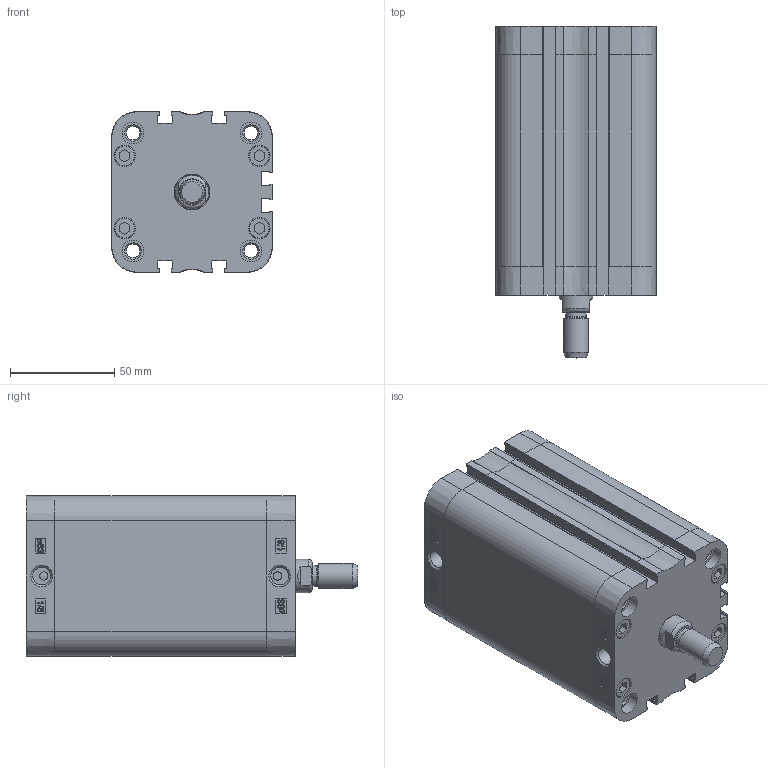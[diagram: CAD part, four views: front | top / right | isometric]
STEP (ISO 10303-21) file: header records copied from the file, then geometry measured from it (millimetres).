
FILE_DESCRIPTION((''),'2;1');
FILE_NAME('T:\Archivio Inventor\- CATALOGHI 2012\SERIE P - NUOVA\PDM\PDM063\PDM063.---.GS.M\PDM063.080.GS.M.stp','2013-02-04T09:29:17',('Administrator'),(''),'Autodesk Inventor 2012','Autodesk Inventor 2012','');
FILE_SCHEMA(('CONFIG_CONTROL_DESIGN'));
Length unit declared in the file: millimetre
Products named in the file (1): PDM063.080.GS.M
Bounding box: 77 x 159 x 77 mm (x, y, z)
Volume: 322040.9 mm3; surface area: 124223.4 mm2
Topology: 1 solids, 5 shells, 824 faces, 1993 edges, 1252 vertices
Faces by surface type: plane 346, bspline 218, cylinder 142, torus 55, cone 45, sphere 18
Full cylindrical faces by diameter (mm): 4 x2, 6.3 x4, 6.647 x8, 8.047 x4, 8.566 x2, 9.8 x8, 10 x1, 10.3 x8, 10.5 x8, 12 x2, 16 x1, 16.5 x1, 63 x1, 65.4 x1, 65.6 x1
Entity records: 27348 total; most frequent: CARTESIAN_POINT 9100, ORIENTED_EDGE 3744, DIRECTION 3031, EDGE_CURVE 1872, VERTEX_POINT 1231, AXIS2_PLACEMENT_3D 1026, EDGE_LOOP 1003, VECTOR 979
